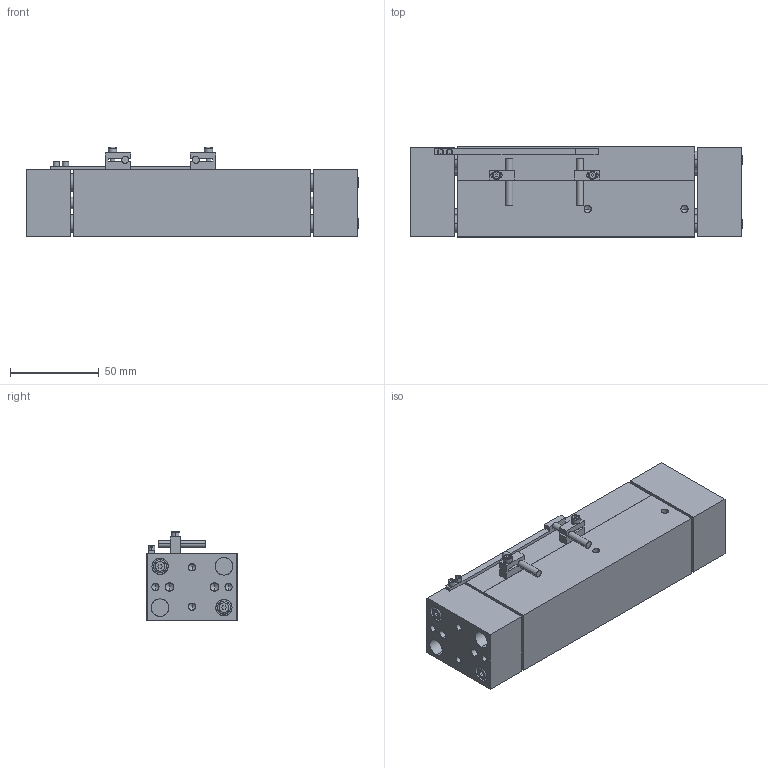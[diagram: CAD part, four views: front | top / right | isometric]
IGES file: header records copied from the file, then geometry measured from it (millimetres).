
Start section: SolidWorks IGES file using analytic representation for surfaces
Global section: file name: C:\Customer Projects\AGI Automation - Peter Farkas\agw-375-4\IGES\AGW-375-4X CLOSED in MM.IGS; native system: SolidWorks 2010; preprocessor: SolidWorks 2010; author: Owner; date: 130822.190242; units: millimetre
Bounding box: 187.39 x 50.8 x 50.5 mm (x, y, z)
Surface area: 105369.7 mm2 (no closed solid volume)
Topology: 0 solids, 0 shells, 382 faces, 5514 edges, 5470 vertices
Faces by surface type: revolution 206, bspline 176
